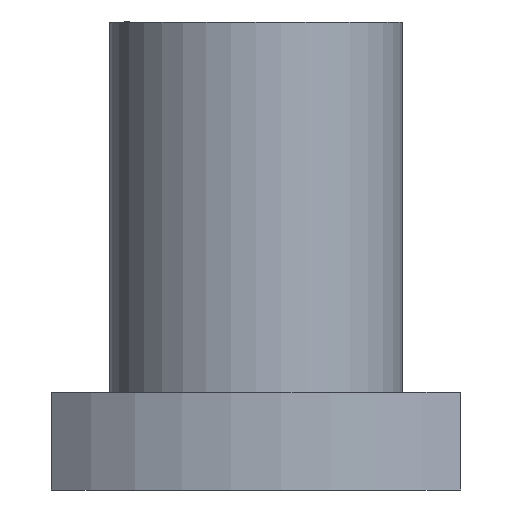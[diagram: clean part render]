
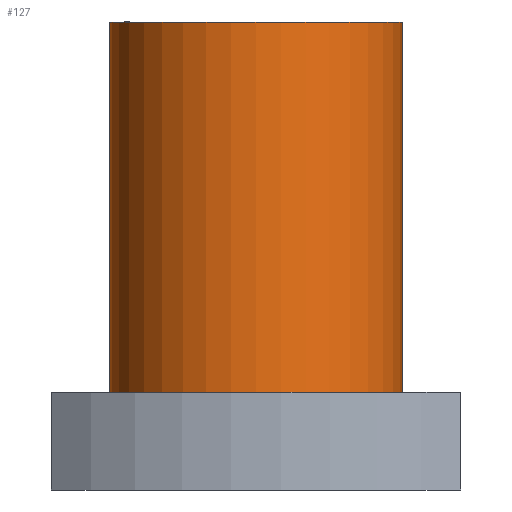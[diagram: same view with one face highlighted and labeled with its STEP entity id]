
A CAD part, front view. The second image highlights one B-rep face of the part: STEP entity #127.
In plain terms, the highlighted cylindrical face has radius 7.5 mm (diameter 15 mm), a partial arc.
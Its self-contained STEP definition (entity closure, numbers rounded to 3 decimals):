
#86=CARTESIAN_POINT('',(5.5,-6.843,0.0));
#87=DIRECTION('',(0.0,0.0,1.0));
#88=DIRECTION('',(-1.0,0.0,0.0));
#89=AXIS2_PLACEMENT_3D('',#86,#87,#88);
#90=CYLINDRICAL_SURFACE('',#89,7.5);
#91=CARTESIAN_POINT('',(-2.,-6.843,5.));
#92=VERTEX_POINT('',#91);
#93=CARTESIAN_POINT('',(-2.,-6.843,24.));
#94=VERTEX_POINT('',#93);
#95=CARTESIAN_POINT('',(-2.,-6.843,5.));
#96=DIRECTION('',(0.0,0.0,1.0));
#97=VECTOR('',#96,19.);
#98=LINE('',#95,#97);
#99=EDGE_CURVE('',#92,#94,#98,.T.);
#100=ORIENTED_EDGE('',*,*,#99,.F.);
#101=CARTESIAN_POINT('',(13.,-6.843,5.0));
#102=VERTEX_POINT('',#101);
#103=CARTESIAN_POINT('',(5.5,-6.843,5.0));
#104=DIRECTION('',(0.0,0.0,-1.0));
#105=DIRECTION('',(-1.0,0.0,0.0));
#106=AXIS2_PLACEMENT_3D('',#103,#104,#105);
#107=CIRCLE('',#106,7.5);
#108=EDGE_CURVE('',#102,#92,#107,.T.);
#109=ORIENTED_EDGE('',*,*,#108,.F.);
#110=CARTESIAN_POINT('',(13.,-6.843,24.));
#111=VERTEX_POINT('',#110);
#112=CARTESIAN_POINT('',(13.,-6.843,24.));
#113=DIRECTION('',(0.0,0.0,-1.0));
#114=VECTOR('',#113,19.);
#115=LINE('',#112,#114);
#116=EDGE_CURVE('',#111,#102,#115,.T.);
#117=ORIENTED_EDGE('',*,*,#116,.F.);
#118=CARTESIAN_POINT('',(5.5,-6.843,24.));
#119=DIRECTION('',(0.0,0.0,-1.0));
#120=DIRECTION('',(-1.0,0.0,0.0));
#121=AXIS2_PLACEMENT_3D('',#118,#119,#120);
#122=CIRCLE('',#121,7.5);
#123=EDGE_CURVE('',#111,#94,#122,.T.);
#124=ORIENTED_EDGE('',*,*,#123,.T.);
#125=EDGE_LOOP('',(#100,#109,#117,#124));
#126=FACE_OUTER_BOUND('',#125,.T.);
#127=ADVANCED_FACE('',(#126),#90,.T.);
